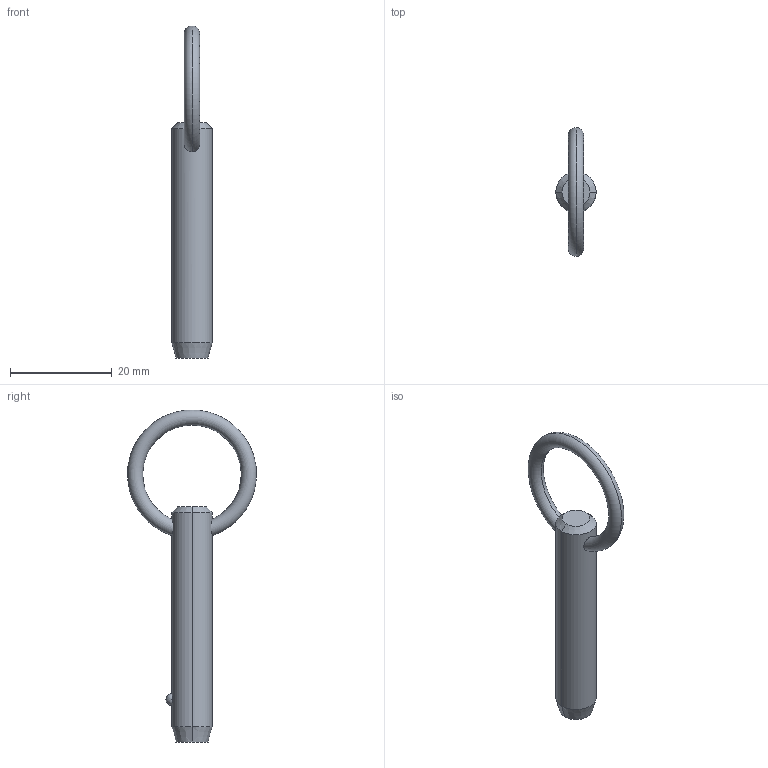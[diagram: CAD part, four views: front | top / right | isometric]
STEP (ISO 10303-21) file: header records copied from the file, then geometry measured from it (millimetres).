
FILE_DESCRIPTION (( 'STEP AP203' ), '1' );
FILE_NAME ('P1250.031-120.step', '2019-07-29T19:48:43', ( '' ), ( '' ), 'SwSTEP 2.0', 'SolidWorks 2017', '' );
FILE_SCHEMA (( 'CONFIG_CONTROL_DESIGN' ));
Length unit declared in the file: millimetre
Products named in the file (1): P1250.031-120
Bounding box: 7.93 x 25.36 x 65.4 mm (x, y, z)
Volume: 2690.7 mm3; surface area: 1790.6 mm2
Topology: 1 solids, 1 shells, 12 faces, 28 edges, 17 vertices
Faces by surface type: cone 4, torus 2, sphere 2, cylinder 2, plane 2
Entity records: 509 total; most frequent: CARTESIAN_POINT 176, DIRECTION 56, ORIENTED_EDGE 48, AXIS2_PLACEMENT_3D 25, EDGE_CURVE 24, VERTEX_POINT 15, EDGE_LOOP 15, FACE_OUTER_BOUND 12
